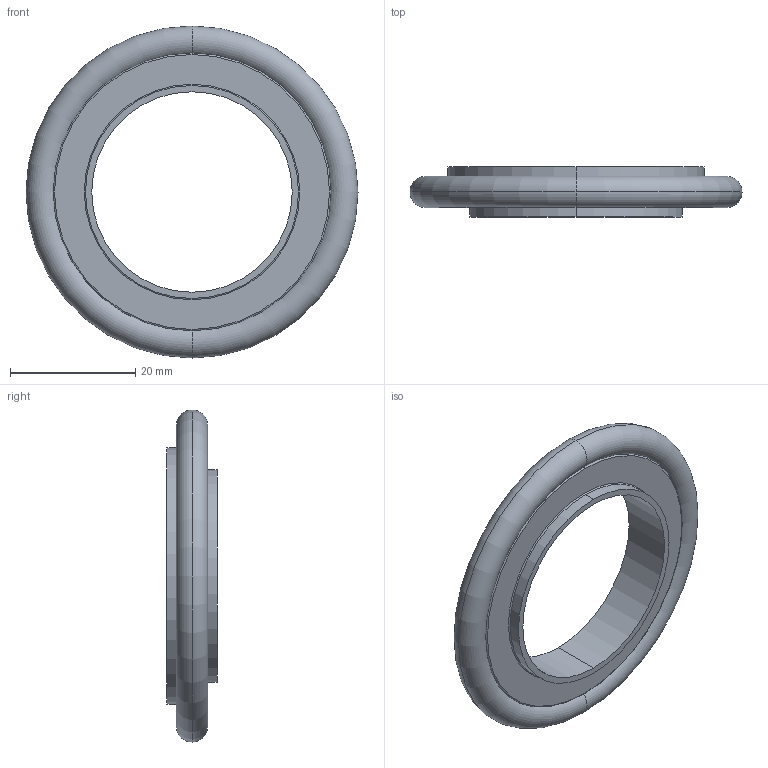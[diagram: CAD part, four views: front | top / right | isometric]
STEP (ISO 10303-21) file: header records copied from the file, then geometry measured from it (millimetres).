
FILE_DESCRIPTION (( 'STEP AP214' ), '1' );
FILE_NAME ('W3RZ40.STEP', '2019-11-15T07:23:55', ( '' ), ( '' ), 'SwSTEP 2.0', 'SolidWorks 2018', '' );
FILE_SCHEMA (( 'AUTOMOTIVE_DESIGN' ));
Length unit declared in the file: millimetre
Products named in the file (3): W3RZ40; O-Ring_43
Assembly tree (2 placements, depth 2):
  W3RZ40
    W3RZ40
    O-Ring_43
Bounding box: 53 x 8 x 53 mm (x, y, z)
Volume: 6898.6 mm3; surface area: 5660 mm2
Topology: 2 solids, 2 shells, 26 faces, 52 edges, 30 vertices
Faces by surface type: torus 16, cylinder 6, plane 4
Entity records: 808 total; most frequent: DIRECTION 160, CARTESIAN_POINT 113, ORIENTED_EDGE 104, AXIS2_PLACEMENT_3D 77, EDGE_CURVE 52, CIRCLE 46, VERTEX_POINT 30, EDGE_LOOP 30
